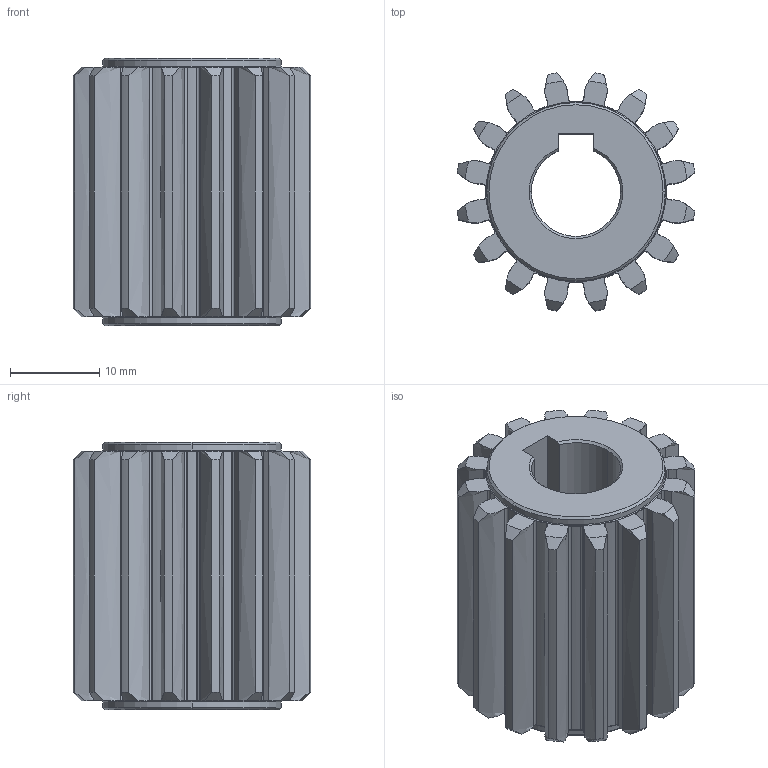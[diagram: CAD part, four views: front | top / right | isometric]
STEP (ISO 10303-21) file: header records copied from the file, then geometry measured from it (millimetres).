
FILE_DESCRIPTION (( 'STEP AP214' ), '1' );
FILE_NAME ('1SG__S015016S.STEP', '2021-08-03T07:17:26', ( '' ), ( '' ), 'SwSTEP 2.0', 'SolidWorks 2021', '' );
FILE_SCHEMA (( 'AUTOMOTIVE_DESIGN' ));
Length unit declared in the file: millimetre
Products named in the file (1): 1SG__S015016S
Bounding box: 26.66 x 26.66 x 30 mm (x, y, z)
Volume: 10322 mm3; surface area: 6117.8 mm2
Topology: 1 solids, 1 shells, 180 faces, 548 edges, 372 vertices
Faces by surface type: cylinder 63, bspline 48, cone 42, plane 23, torus 4
Entity records: 9866 total; most frequent: CARTESIAN_POINT 5097, ORIENTED_EDGE 1096, DIRECTION 890, EDGE_CURVE 548, VERTEX_POINT 372, AXIS2_PLACEMENT_3D 341, CIRCLE 208, LINE 208
